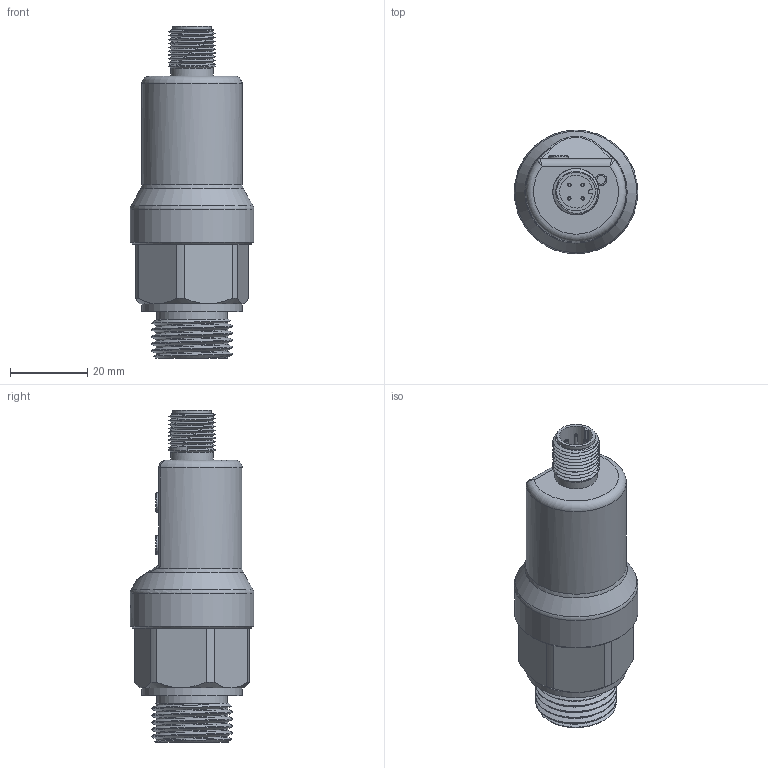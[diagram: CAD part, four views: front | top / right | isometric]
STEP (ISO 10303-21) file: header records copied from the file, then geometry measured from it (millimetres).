
FILE_DESCRIPTION( (''), '2;1');
FILE_NAME( 'PSKA_G1-2.step', '2025-08-21T15:31:11+08:00', (''), (''), '', '', '');
FILE_SCHEMA (('AUTOMOTIVE_DESIGN { 1 0 10303 214 3 1 1 1 }'));
Length unit declared in the file: millimetre
Products named in the file (1): PSKA G1-2
Bounding box: 32 x 32 x 86 mm (x, y, z)
Volume: 22035.6 mm3; surface area: 19186.5 mm2
Topology: 11 solids, 11 shells, 270 faces, 612 edges, 392 vertices
Faces by surface type: plane 141, cylinder 67, cone 25, torus 22, bspline 14, sphere 1
Full cylindrical faces by diameter (mm): 0.5 x2, 0.9 x8, 2 x4, 2.6 x1, 3 x1, 4 x1, 5 x2, 5.3 x2, 7 x1, 9.8 x2, 10 x1, 11 x1, 18.4 x1, 19.1 x1, 23 x2, 24 x1, 26 x4, 26.1 x1, 32 x1
Entity records: 11579 total; most frequent: CARTESIAN_POINT 5683, DIRECTION 1154, ORIENTED_EDGE 1050, EDGE_CURVE 525, AXIS2_PLACEMENT_3D 454, EDGE_LOOP 379, VERTEX_POINT 372, ADVANCED_FACE 270
